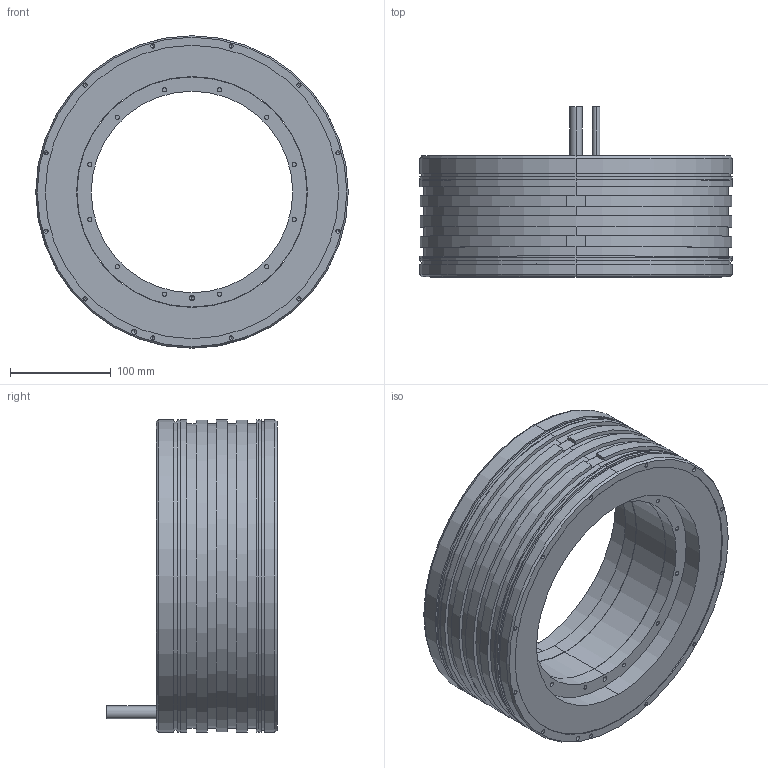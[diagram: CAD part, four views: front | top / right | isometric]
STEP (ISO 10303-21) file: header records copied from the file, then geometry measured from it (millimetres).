
FILE_DESCRIPTION (( 'STEP AP203' ), '1' );
FILE_NAME ('TM-2-77.STEP', '2020-10-20T05:49:27', ( '' ), ( '' ), 'SwSTEP 2.0', 'SolidWorks 2015', '' );
FILE_SCHEMA (( 'CONFIG_CONTROL_DESIGN' ));
Length unit declared in the file: millimetre
Products named in the file (3): TM-2-7X_rotor_TM-2-77_stator; TM-2-77; TM-2-7X_stator_TM-2-77_stator
Assembly tree (2 placements, depth 2):
  TM-2-77
    TM-2-7X_stator_TM-2-77_stator
    TM-2-7X_rotor_TM-2-77_stator
Bounding box: 310 x 169 x 310 mm (x, y, z)
Volume: 4566428.6 mm3; surface area: 432018.9 mm2
Topology: 2 solids, 2 shells, 270 faces, 610 edges, 352 vertices
Faces by surface type: cylinder 151, cone 64, plane 55
Entity records: 7501 total; most frequent: DIRECTION 1410, CARTESIAN_POINT 1181, ORIENTED_EDGE 1108, AXIS2_PLACEMENT_3D 581, EDGE_CURVE 554, VERTEX_POINT 352, EDGE_LOOP 338, CIRCLE 306
